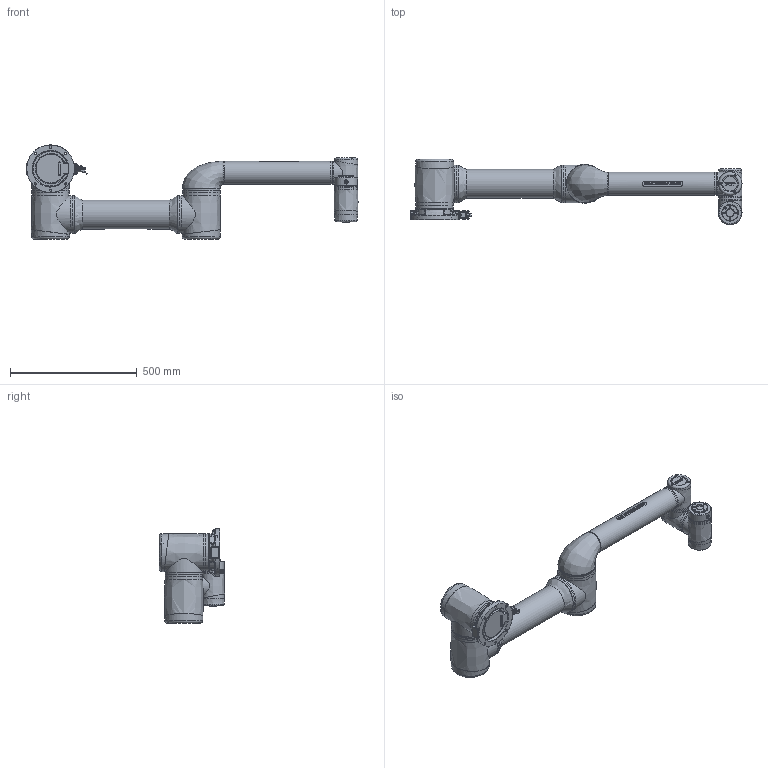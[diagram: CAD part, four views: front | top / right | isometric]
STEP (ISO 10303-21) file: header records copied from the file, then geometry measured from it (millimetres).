
FILE_DESCRIPTION (( 'STEP AP214' ), '1' );
FILE_NAME ('Pro 12.STEP', '2023-10-15T14:43:48', ( '' ), ( '' ), 'SwSTEP 2.0', 'SolidWorks 2016', '' );
FILE_SCHEMA (( 'AUTOMOTIVE_DESIGN' ));
Length unit declared in the file: millimetre
Products named in the file (15): Pro 12 06; Pro 12; Pro 12 05; Pro 12 03; Pro 12 02; Pro 12 04; Pro 12 01; Pro 12 00
Assembly tree (7 placements, depth 2):
  Pro 12
    Pro 12 00
    Pro 12 01
    Pro 12 02
    Pro 12 03
    Pro 12 04
    Pro 12 05
    Pro 12 06
  Pro 12 05
  Pro 12 06
  Pro 12 01
  Pro 12 02
Bounding box: 1310.68 x 257.9 x 372.15 mm (x, y, z)
Volume: 24606686.6 mm3; surface area: 1261109.1 mm2
Topology: 18 solids, 32 shells, 2506 faces, 6507 edges, 4254 vertices
Faces by surface type: plane 1541, bspline 403, cylinder 379, cone 129, torus 50, sphere 4
Full cylindrical faces by diameter (mm): 0.8 x8, 0.9 x10, 1.6 x1, 1.7 x5, 1.8 x1, 3 x5, 3.1 x1, 3.2 x3, 3.5 x1, 4.2 x1, 4.8 x2, 5 x4, 5.2 x5, 5.5 x2, 5.8 x1, 6 x1, 6.2 x15, 8 x2, 8.7 x1, 9 x6, 9.58 x1, 10.4 x1, 12 x3, 12.2 x1, 12.7 x2, 14 x3, 14.35 x1, 14.65 x1, 15 x5, 18 x2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
Entity records: 133784 total; most frequent: CARTESIAN_POINT 58549, ORIENTED_EDGE 12236, DIRECTION 9458, EDGE_CURVE 6118, VERTEX_POINT 4140, LINE 3802, VECTOR 3802, EDGE_LOOP 3016
